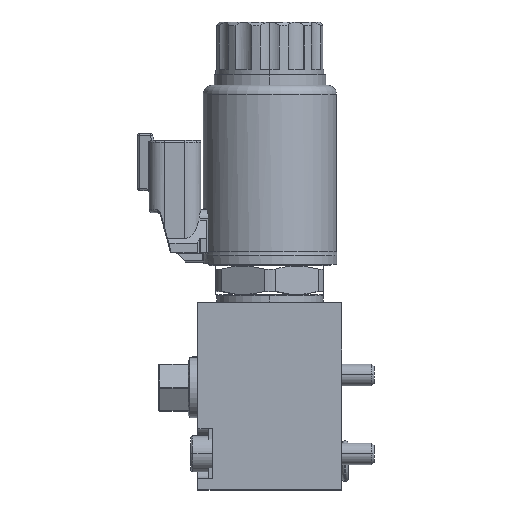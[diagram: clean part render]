
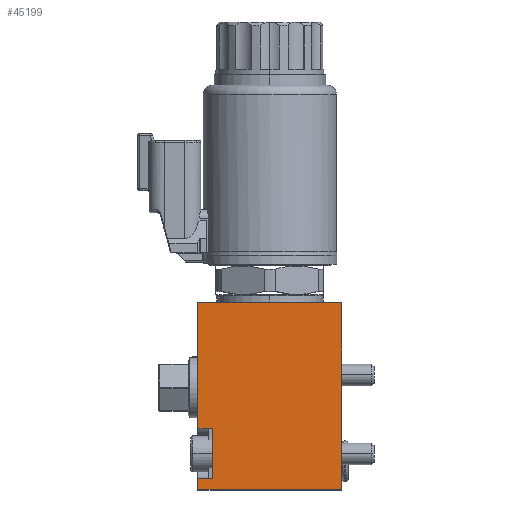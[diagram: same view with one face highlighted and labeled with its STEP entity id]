
A CAD part, top view. The second image highlights one B-rep face of the part: STEP entity #45199.
In plain terms, the highlighted planar face has unit normal (0, 0, 1).
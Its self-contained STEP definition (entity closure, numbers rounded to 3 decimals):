
#1036 = VECTOR ( 'NONE', #10737, 1000. ) ;
#1468 = ORIENTED_EDGE ( 'NONE', *, *, #44951, .F. ) ;
#1981 = DIRECTION ( 'NONE',  ( 0., 0., 1. ) ) ;
#2063 = ORIENTED_EDGE ( 'NONE', *, *, #5875, .F. ) ;
#2118 = VERTEX_POINT ( 'NONE', #13294 ) ;
#2482 = LINE ( 'NONE', #40208, #1036 ) ;
#3575 = CARTESIAN_POINT ( 'NONE',  ( 0., -49., 44. ) ) ;
#5586 = VECTOR ( 'NONE', #20665, 1000. ) ;
#5679 = EDGE_CURVE ( 'NONE', #33223, #26793, #14977, .T. ) ;
#5828 = VECTOR ( 'NONE', #6155, 1000. ) ;
#5875 = EDGE_CURVE ( 'NONE', #40534, #26716, #32838, .T. ) ;
#6030 = CARTESIAN_POINT ( 'NONE',  ( 0., -52., 44. ) ) ;
#6155 = DIRECTION ( 'NONE',  ( -1., 0., 0. ) ) ;
#6891 = CARTESIAN_POINT ( 'NONE',  ( 4., -49., 44. ) ) ;
#7073 = ORIENTED_EDGE ( 'NONE', *, *, #43908, .T. ) ;
#7880 = CARTESIAN_POINT ( 'NONE',  ( 19.232, -49., 44. ) ) ;
#8340 = ORIENTED_EDGE ( 'NONE', *, *, #14518, .T. ) ;
#9088 = ORIENTED_EDGE ( 'NONE', *, *, #35276, .T. ) ;
#10157 = EDGE_LOOP ( 'NONE', ( #1468, #17126, #8340, #39500, #31923, #7073, #9088, #2063 ) ) ;
#10201 = VECTOR ( 'NONE', #22768, 1000. ) ;
#10249 = CARTESIAN_POINT ( 'NONE',  ( 0., 0., 44. ) ) ;
#10737 = DIRECTION ( 'NONE',  ( 0., -1., 0. ) ) ;
#11263 = LINE ( 'NONE', #22511, #10201 ) ;
#11603 = CARTESIAN_POINT ( 'NONE',  ( 4., -35., 44. ) ) ;
#13294 = CARTESIAN_POINT ( 'NONE',  ( 40., 0., 44. ) ) ;
#13449 = VECTOR ( 'NONE', #43515, 1000. ) ;
#13854 = CARTESIAN_POINT ( 'NONE',  ( 0., 0., 44. ) ) ;
#14518 = EDGE_CURVE ( 'NONE', #26793, #17052, #2482, .T. ) ;
#14621 = CARTESIAN_POINT ( 'NONE',  ( 40., 0., 44. ) ) ;
#14856 = CARTESIAN_POINT ( 'NONE',  ( 19.232, -35., 44. ) ) ;
#14977 = LINE ( 'NONE', #7880, #18282 ) ;
#15599 = LINE ( 'NONE', #14621, #45872 ) ;
#16148 = PLANE ( 'NONE',  #43671 ) ;
#16395 = FACE_OUTER_BOUND ( 'NONE', #10157, .T. ) ;
#17052 = VERTEX_POINT ( 'NONE', #21202 ) ;
#17126 = ORIENTED_EDGE ( 'NONE', *, *, #5679, .T. ) ;
#18282 = VECTOR ( 'NONE', #23289, 1000. ) ;
#20007 = CARTESIAN_POINT ( 'NONE',  ( 40., -52., 44. ) ) ;
#20665 = DIRECTION ( 'NONE',  ( -1., 0., 0. ) ) ;
#21202 = CARTESIAN_POINT ( 'NONE',  ( 0., -52., 44. ) ) ;
#22173 = LINE ( 'NONE', #13854, #32367 ) ;
#22409 = DIRECTION ( 'NONE',  ( 0., -1., 0. ) ) ;
#22511 = CARTESIAN_POINT ( 'NONE',  ( 4., 0., 44. ) ) ;
#22768 = DIRECTION ( 'NONE',  ( 0., 1., 0. ) ) ;
#23289 = DIRECTION ( 'NONE',  ( -1., 0., 0. ) ) ;
#26716 = VERTEX_POINT ( 'NONE', #43996 ) ;
#26793 = VERTEX_POINT ( 'NONE', #3575 ) ;
#29686 = DIRECTION ( 'NONE',  ( 0., 1., 0. ) ) ;
#30949 = CARTESIAN_POINT ( 'NONE',  ( 0., 0., 44. ) ) ;
#31923 = ORIENTED_EDGE ( 'NONE', *, *, #37687, .T. ) ;
#32367 = VECTOR ( 'NONE', #22409, 1000. ) ;
#32838 = LINE ( 'NONE', #14856, #5828 ) ;
#33223 = VERTEX_POINT ( 'NONE', #6891 ) ;
#35276 = EDGE_CURVE ( 'NONE', #37604, #26716, #22173, .T. ) ;
#35411 = LINE ( 'NONE', #46418, #5586 ) ;
#36416 = LINE ( 'NONE', #6030, #13449 ) ;
#37604 = VERTEX_POINT ( 'NONE', #10249 ) ;
#37687 = EDGE_CURVE ( 'NONE', #40451, #2118, #15599, .T. ) ;
#39500 = ORIENTED_EDGE ( 'NONE', *, *, #46096, .T. ) ;
#40208 = CARTESIAN_POINT ( 'NONE',  ( 0., 0., 44. ) ) ;
#40451 = VERTEX_POINT ( 'NONE', #20007 ) ;
#40534 = VERTEX_POINT ( 'NONE', #11603 ) ;
#42179 = DIRECTION ( 'NONE',  ( 1., 0., 0. ) ) ;
#43515 = DIRECTION ( 'NONE',  ( 1., 0., 0. ) ) ;
#43671 = AXIS2_PLACEMENT_3D ( 'NONE', #30949, #1981, #42179 ) ;
#43908 = EDGE_CURVE ( 'NONE', #2118, #37604, #35411, .T. ) ;
#43996 = CARTESIAN_POINT ( 'NONE',  ( 0., -35., 44. ) ) ;
#44951 = EDGE_CURVE ( 'NONE', #33223, #40534, #11263, .T. ) ;
#45199 = ADVANCED_FACE ( 'NONE', ( #16395 ), #16148, .T. ) ;
#45872 = VECTOR ( 'NONE', #29686, 1000. ) ;
#46096 = EDGE_CURVE ( 'NONE', #17052, #40451, #36416, .T. ) ;
#46418 = CARTESIAN_POINT ( 'NONE',  ( 0., 0., 44. ) ) ;
